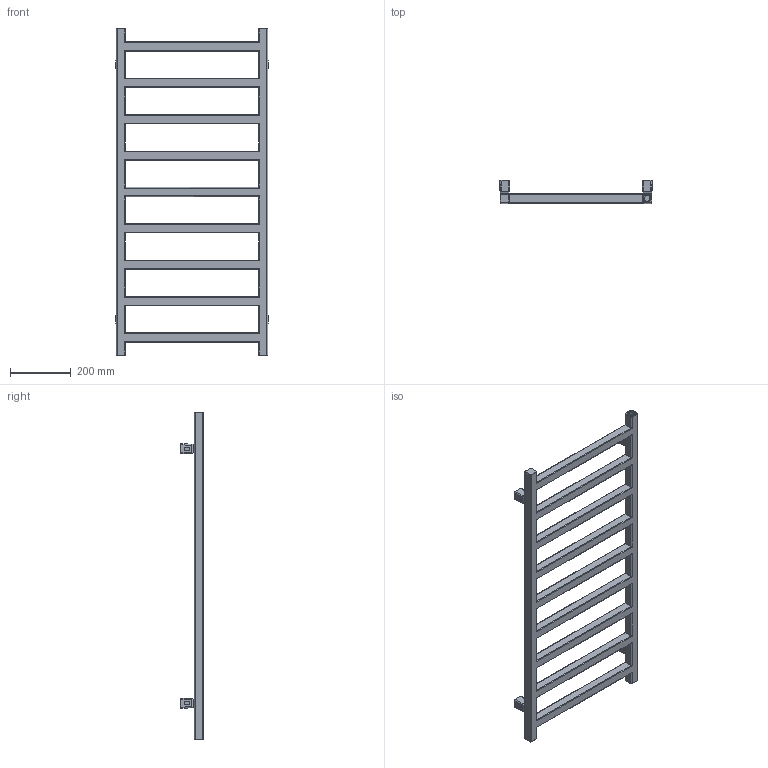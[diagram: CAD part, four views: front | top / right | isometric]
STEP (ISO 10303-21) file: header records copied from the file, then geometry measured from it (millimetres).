
FILE_DESCRIPTION((''),'2;1');
FILE_NAME('Z:\R\G\P\RGP035 - Grzejnik Simple\Work\Inventor\Marketing\AutoCad 3D\G-SI-XX-MK-XX-10-50-SX.stp','2012-07-24T14:01:48',('DawPi'),(''),'Autodesk Inventor 2012','Autodesk Inventor 2012','');
FILE_SCHEMA(('AUTOMOTIVE_DESIGN { 1 0 10303 214 1 1 1 1 }'));
Length unit declared in the file: millimetre
Products named in the file (3): G-SI-XX-MK-XX-10-50-SX; MKT42-00-A v0.2
Assembly tree (5 placements, depth 2):
  G-SI-XX-MK-XX-10-50-SX
    G-SI-XX-MK-XX-10-50-SX
    MKT42-00-A v0.2  x4
Bounding box: 503.98 x 74.5 x 1080 mm (x, y, z)
Volume: 5628537.6 mm3; surface area: 733060.3 mm2
Topology: 5 solids, 5 shells, 443 faces, 1103 edges, 701 vertices
Faces by surface type: cylinder 207, plane 165, bspline 60, torus 11
Full cylindrical faces by diameter (mm): 4.134 x4, 10 x4, 12 x4, 18.631 x3
Entity records: 9313 total; most frequent: CARTESIAN_POINT 3277, ORIENTED_EDGE 1238, DIRECTION 1208, EDGE_CURVE 619, AXIS2_PLACEMENT_3D 450, VERTEX_POINT 407, VECTOR 308, LINE 308
